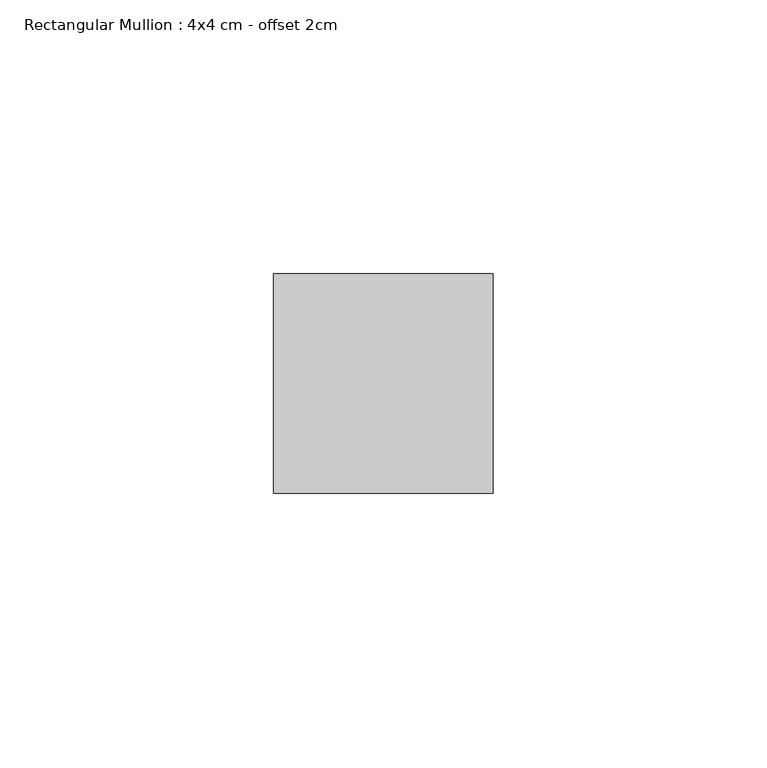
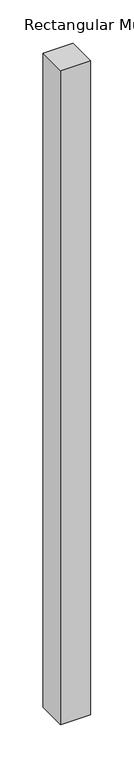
"""IFC4 building model written with IfcOpenShell, lengths in millimetres: member geometry, Rectangular Mullion : 4x4 cm - offset 2cm."""

from ifc_helpers import new_model, si_unit, frame, origin, place, context, project, spatial, polyline, outline, extrude, source, transform, mapped, element, save


def rectangular_mullion_4x4_cm_offset_2cm_f339643f(model_context):
    return source(origin(), model_context, "Body", "SweptSolid", [
        extrude(outline(polyline([(40.0, 40.0), (40.0, 0.0), (0.0, 0.0), (0.0, 40.0), (40.0, 40.0)])), frame((0.0, 0.0, -920.0000003), z_axis=(0.0, 0.0, 1.0), x_axis=(1.0, 0.0, 0.0)), (0.0, 0.0, 1.0), 920.0000003),
    ])


if __name__ == "__main__":
    model = new_model("IFC4")
    model_context = context("Model", 3, world=origin())
    ifc_project = project(units=[si_unit("LENGTHUNIT", "METRE", prefix="MILLI")], contexts=[model_context])
    site = spatial("IfcSite", under=ifc_project)
    building = spatial("IfcBuilding", under=site)
    placement = place(None, origin())
    rectangular_mullion_4x4_cm_offset_2cm_shape = rectangular_mullion_4x4_cm_offset_2cm_f339643f(model_context)
    element("IfcMember", 1, ObjectType="Rectangular Mullion : 4x4 cm - offset 2cm", at=placement, inside=building, context=model_context, shape_type="MappedRepresentation", body=[
        mapped(rectangular_mullion_4x4_cm_offset_2cm_shape, transform((0.0, 0.0, 0.0), x_axis=(1.0, 0.0, 0.0), y_axis=(0.0, 1.0, 0.0), z_axis=(0.0, 0.0, 1.0))),
    ])
    save(model, "model.ifc")
